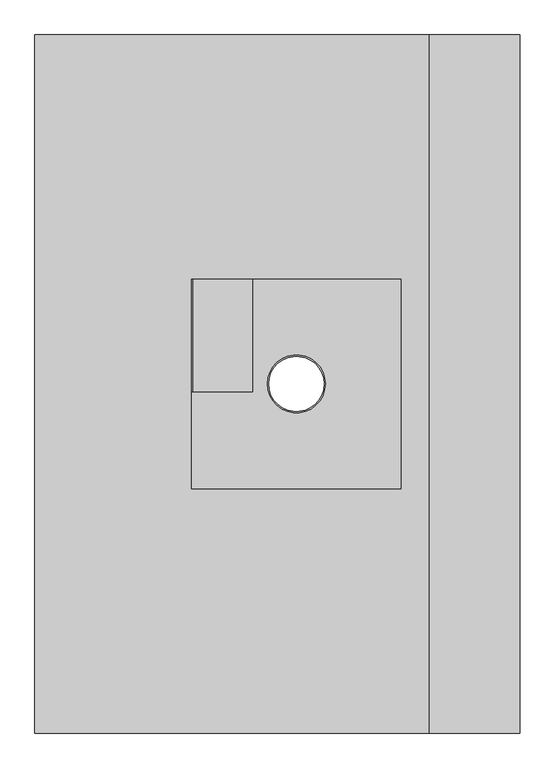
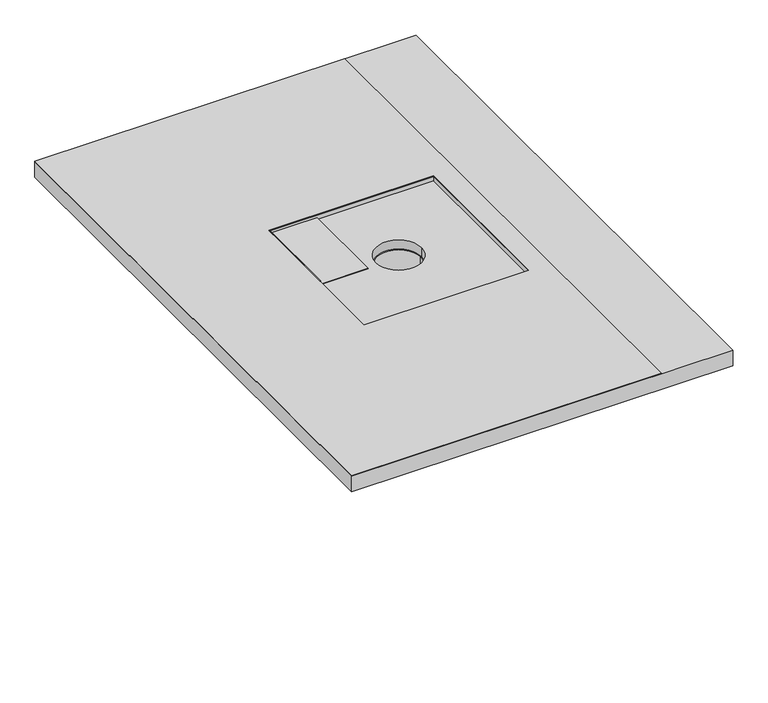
"""IFC4 building model written with IfcOpenShell, lengths in millimetres: proxy geometry, IMPER:IMPER:433934 : IMPER:IMPER:433934."""

from ifc_helpers import new_model, si_unit, point, frame, frame_2d, origin, place, context, project, spatial, polyline, circle_curve, trimmed, segment, composite_curve, outline, extrude, source, transform, mapped, element, save
from ifc_brep_helpers import plane_surface, revolved_surface, advanced_brep


def generic_models_dc7dfd66(model_context):
    return source(origin(), model_context, "Body", "SolidModel", [
        extrude(outline(polyline([(28.5018705, 773.6644952), (28.5018705, 772.6644952), (21.4797492, 772.6644952), (21.4797492, 860.1703196), (22.4797492, 860.1703196), (22.4797492, 773.6644952), (28.5018705, 773.6644952)])), frame((0.0, -1249.0790672, 0.0), z_axis=(0.0, 1.0, 0.0), x_axis=(0.0, 0.0, 1.0)), (0.0, 0.0, 1.0), 161.0878647),
        extrude(outline(composite_curve([segment(trimmed(circle_curve(frame_2d((922.6644952, -1237.9912025)), 41.5), [point((964.1644952, -1237.9912025))], [point((881.1644952, -1237.9912025))], False, "CARTESIAN"), True, "CONTINUOUS"), segment(trimmed(circle_curve(frame_2d((922.6644952, -1237.9912025)), 41.5), [point((881.1644952, -1237.9912025))], [point((964.1644952, -1237.9912025))], False, "CARTESIAN"), True, "CONTINUOUS")], self_intersect=False), holes=[composite_curve([segment(trimmed(circle_curve(frame_2d((922.6644952, -1237.9912025)), 39.5), [point((962.1644952, -1237.9912025))], [point((883.1644952, -1237.9912025))], True, "CARTESIAN"), True, "CONTINUOUS"), segment(trimmed(circle_curve(frame_2d((922.6644952, -1237.9912025)), 39.5), [point((883.1644952, -1237.9912025))], [point((962.1644952, -1237.9912025))], True, "CARTESIAN"), True, "CONTINUOUS")], self_intersect=False)]), frame((0.0, 0.0, -340.9331242), z_axis=(0.0, 0.0, 1.0), x_axis=(1.0, 0.0, 0.0)), (0.0, 0.0, 1.0), 343.0051027),
        advanced_brep(
        [(1243.085242, -738.0570215, 27.476202), (1243.085242, -738.0570215, -2.523798), (547.8103968, -738.0570215, -2.523798), (547.8103968, -738.0570215, 27.476202), (1243.085242, -1738.0570215, 27.476202), (547.8103968, -1738.0570215, 27.476202), (547.8103968, -1738.0570215, -2.523798), (1243.085242, -1738.0570215, -2.523798), (772.6644952, -1087.9912025, 27.476202), (1072.6644952, -1087.9912025, 27.476202), (1072.6644952, -1387.9912025, 27.476202), (772.6644952, -1387.9912025, 27.476202), (964.1644952, -1237.9912025, -2.523798), (881.1644952, -1237.9912025, -2.523798), (772.6644952, -1087.9912025, 19.4061759), (1072.6644952, -1087.9912025, 19.4061759), (772.6644952, -1387.9912025, 19.4061759), (1072.6644952, -1387.9912025, 19.4061759), (881.1644952, -1237.9912025, 19.4061759), (964.1644952, -1237.9912025, 19.4061759)],
        [
            (0, 1),
            (1, 2),
            (2, 3),
            (3, 0),
            (4, 5),
            (5, 6),
            (6, 7),
            (7, 4),
            (3, 5),
            (4, 0),
            (8, 9),
            (9, 10),
            (10, 11),
            (11, 8),
            (7, 1),
            (6, 2),
            (12, 13, circle_curve(frame((922.6644952, -1237.9912025, -2.523798), z_axis=(0.0, 0.0, 1.0), x_axis=(1.0, 0.0, 0.0)), 41.5)),
            (13, 12, circle_curve(frame((922.6644952, -1237.9912025, -2.523798), z_axis=(0.0, 0.0, 1.0), x_axis=(1.0, 0.0, 0.0)), 41.5)),
            (14, 15),
            (15, 9),
            (8, 14),
            (16, 14),
            (11, 16),
            (17, 16),
            (10, 17),
            (15, 17),
            (18, 19, circle_curve(frame((922.6644952, -1237.9912025, 19.4061759), z_axis=(0.0, 0.0, -1.0), x_axis=(1.0, 0.0, 0.0)), 41.5)),
            (19, 18, circle_curve(frame((922.6644952, -1237.9912025, 19.4061759), z_axis=(0.0, 0.0, -1.0), x_axis=(1.0, 0.0, 0.0)), 41.5)),
            (12, 19),
            (18, 13),
        ],
        [
            plane_surface(frame((1243.085242, -738.0570215, -2.523798), z_axis=(0.0, 1.0, 0.0), x_axis=(0.0, 0.0, -1.0))),
            plane_surface(frame((1243.085242, -1738.0570215, -2.523798), z_axis=(0.0, -1.0, 0.0), x_axis=(0.0, 0.0, 1.0))),
            plane_surface(frame((547.8103968, -738.0570215, 27.476202), z_axis=(0.0, 0.0, 1.0), x_axis=(0.0, -1.0, 0.0))),
            plane_surface(frame((1243.085242, -738.0570215, 27.476202), z_axis=(1.0, 0.0, 0.0), x_axis=(0.0, -1.0, 0.0))),
            plane_surface(frame((1243.085242, -738.0570215, -2.523798), z_axis=(0.0, 0.0, -1.0), x_axis=(0.0, -1.0, 0.0))),
            plane_surface(frame((547.8103968, -738.0570215, -2.523798), z_axis=(-1.0, 0.0, 0.0), x_axis=(0.0, -1.0, 0.0))),
            plane_surface(frame((1072.6644952, -1087.9912025, 396.8938125), z_axis=(0.0, -1.0, 0.0), x_axis=(0.0, 0.0, -1.0))),
            plane_surface(frame((772.6644952, -1087.9912025, 396.8938125), z_axis=(1.0, 0.0, 0.0), x_axis=(0.0, 0.0, -1.0))),
            plane_surface(frame((772.6644952, -1387.9912025, 396.8938125), z_axis=(0.0, 1.0, 0.0), x_axis=(0.0, 0.0, -1.0))),
            plane_surface(frame((1072.6644952, -1387.9912025, 396.8938125), z_axis=(-1.0, 0.0, 0.0), x_axis=(0.0, 0.0, -1.0))),
            plane_surface(frame((772.6644952, -1087.9912025, 19.4061759), z_axis=(0.0, 0.0, 1.0), x_axis=(1.0, 0.0, 0.0))),
            revolved_surface(polyline([(964.1644952, -1237.9912025, 19.406175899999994), (964.1644952, -1237.9912025, -2.523798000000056)]), (922.6644952, -1237.9912025, -602.3626682), (0.0, 0.0, 1.0)),
        ],
        [
            (0, [[1, 2, 3, 4]]),
            (1, [[5, 6, 7, 8]]),
            (2, [[-4, 9, -5, 10], [11, 12, 13, 14]]),
            (3, [[-1, -10, -8, 15]]),
            (4, [[-2, -15, -7, 16], [17, 18]]),
            (5, [[-3, -16, -6, -9]]),
            (6, [[19, 20, -11, 21]]),
            (7, [[22, -21, -14, 23]]),
            (8, [[24, -23, -13, 25]]),
            (9, [[26, -25, -12, -20]]),
            (10, [[-19, -22, -24, -26], [27, 28]]),
            (11, [[-17, 29, -27, 30]]),
            (11, [[-18, -30, -28, -29]]),
        ],
    ),
        extrude(outline(polyline([(547.8103968, -738.0570215), (1112.6644952, -738.0570215), (1112.6644952, -1738.0570215), (547.8103968, -1738.0570215), (547.8103968, -738.0570215)]), holes=[polyline([(1072.6644952, -1087.9912025), (772.6644952, -1087.9912025), (772.6644952, -1387.9912025), (1072.6644952, -1387.9912025), (1072.6644952, -1087.9912025)])]), frame((0.0, 0.0, 27.476202), z_axis=(0.0, 0.0, 1.0), x_axis=(1.0, 0.0, 0.0)), (0.0, 0.0, 1.0), 1.0256685),
    ])


if __name__ == "__main__":
    model = new_model("IFC4")
    model_context = context("Model", 3, world=origin())
    ifc_project = project(units=[si_unit("LENGTHUNIT", "METRE", prefix="MILLI")], contexts=[model_context])
    site = spatial("IfcSite", under=ifc_project)
    building = spatial("IfcBuilding", under=site)
    placement = place(None, origin())
    generic_models_shape = generic_models_dc7dfd66(model_context)
    element("IfcBuildingElementProxy", 1, Name="IMPER:IMPER:433934 : IMPER:IMPER:433934", ObjectType="IMPER:IMPER:433934 : IMPER:IMPER:433934", at=placement, inside=building, context=model_context, shape_type="MappedRepresentation", body=[
        mapped(generic_models_shape, transform((0.0, 0.0, 0.0), x_axis=(1.0, 0.0, 0.0), y_axis=(0.0, 1.0, 0.0), z_axis=(0.0, 0.0, 1.0))),
    ])
    save(model, "model.ifc")
